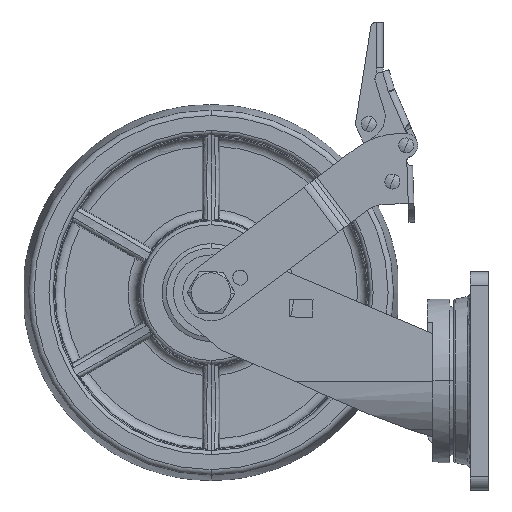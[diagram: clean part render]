
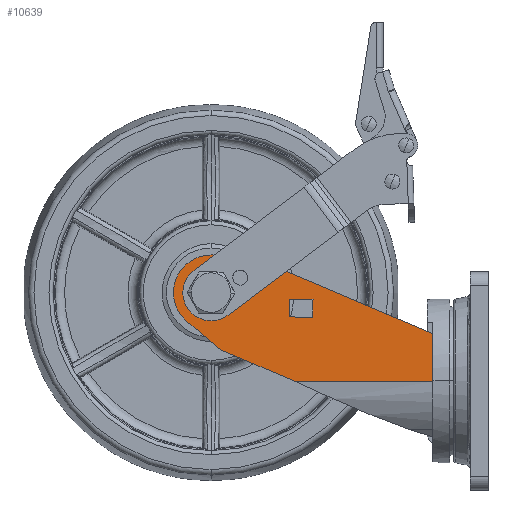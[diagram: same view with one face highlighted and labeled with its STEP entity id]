
A CAD part, left-side view. The second image highlights one B-rep face of the part: STEP entity #10639.
In plain terms, the highlighted planar face has unit normal (-1, 0, 0) as drawn and (1, 0, 0) by its records, which use the part's own axes.
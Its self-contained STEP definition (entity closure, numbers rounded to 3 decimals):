
#10099=DIRECTION('',(0.,0.,1.));
#10100=VECTOR('',#10099,25.413);
#10101=CARTESIAN_POINT('',(0.,38.,-1.068));
#10102=LINE('',#10101,#10100);
#10169=DIRECTION('',(0.,1.,0.));
#10170=VECTOR('',#10169,73.214);
#10171=CARTESIAN_POINT('',(0.,-35.214,-1.068));
#10172=LINE('',#10171,#10170);
#10177=DIRECTION('',(0.,-0.921,0.391));
#10178=VECTOR('',#10177,43.054);
#10179=CARTESIAN_POINT('',(0.,-35.214,-1.068));
#10180=LINE('',#10179,#10178);
#10181=DIRECTION('',(0.,-0.766,0.643));
#10182=VECTOR('',#10181,23.511);
#10183=CARTESIAN_POINT('',(0.,-74.845,15.755));
#10184=LINE('',#10183,#10182);
#10185=CARTESIAN_POINT('',(0.,-80.,46.188));
#10186=DIRECTION('',(-1.,0.,0.));
#10187=DIRECTION('',(0.,-0.643,-0.766));
#10188=AXIS2_PLACEMENT_3D('',#10185,#10186,#10187);
#10190=CARTESIAN_POINT('',(0.,-80.,46.188));
#10191=DIRECTION('',(-1.,0.,0.));
#10192=DIRECTION('',(0.,0.,1.));
#10193=AXIS2_PLACEMENT_3D('',#10190,#10191,#10192);
#10195=DIRECTION('',(0.,0.995,-0.105));
#10196=VECTOR('',#10195,23.511);
#10197=CARTESIAN_POINT('',(0.,-77.909,66.078));
#10198=LINE('',#10197,#10196);
#10199=DIRECTION('',(0.,0.921,-0.391));
#10200=VECTOR('',#10199,100.518);
#10201=CARTESIAN_POINT('',(0.,-54.527,63.621));
#10202=LINE('',#10201,#10200);
#10203=DIRECTION('',(0.,0.017,1.));
#10204=VECTOR('',#10203,9.5);
#10205=CARTESIAN_POINT('',(0.,-25.934,33.03));
#10206=LINE('',#10205,#10204);
#10207=DIRECTION('',(0.,-1.,0.017));
#10208=VECTOR('',#10207,12.5);
#10209=CARTESIAN_POINT('',(0.,-25.768,42.528));
#10210=LINE('',#10209,#10208);
#10211=DIRECTION('',(0.,-0.017,-1.));
#10212=VECTOR('',#10211,9.5);
#10213=CARTESIAN_POINT('',(0.,-38.266,42.746));
#10214=LINE('',#10213,#10212);
#10215=DIRECTION('',(0.,1.,-0.017));
#10216=VECTOR('',#10215,12.5);
#10217=CARTESIAN_POINT('',(0.,-38.432,33.248));
#10218=LINE('',#10217,#10216);
#10219=CARTESIAN_POINT('',(0.,-64.47,54.128));
#10220=DIRECTION('',(1.,0.,0.));
#10221=DIRECTION('',(0.,0.,-1.));
#10222=AXIS2_PLACEMENT_3D('',#10219,#10220,#10221);
#10224=CARTESIAN_POINT('',(0.,-64.47,54.128));
#10225=DIRECTION('',(1.,0.,0.));
#10226=DIRECTION('',(0.,0.,1.));
#10227=AXIS2_PLACEMENT_3D('',#10224,#10225,#10226);
#10229=CARTESIAN_POINT('',(0.,-80.,46.188));
#10230=DIRECTION('',(1.,0.,0.));
#10231=DIRECTION('',(0.,0.,-1.));
#10232=AXIS2_PLACEMENT_3D('',#10229,#10230,#10231);
#10234=CARTESIAN_POINT('',(0.,-80.,46.188));
#10235=DIRECTION('',(1.,0.,0.));
#10236=DIRECTION('',(0.,0.,1.));
#10237=AXIS2_PLACEMENT_3D('',#10234,#10235,#10236);
#10276=CARTESIAN_POINT('',(0.,-25.768,42.528));
#10278=VERTEX_POINT('',#10276);
#10281=CARTESIAN_POINT('',(0.,-38.266,42.746));
#10282=VERTEX_POINT('',#10281);
#10284=CARTESIAN_POINT('',(0.,-25.934,33.03));
#10286=VERTEX_POINT('',#10284);
#10288=CARTESIAN_POINT('',(0.,-38.432,33.248));
#10290=VERTEX_POINT('',#10288);
#10315=CARTESIAN_POINT('',(0.,38.,-1.068));
#10316=VERTEX_POINT('',#10315);
#10317=CARTESIAN_POINT('',(0.,38.,24.345));
#10318=VERTEX_POINT('',#10317);
#10326=CARTESIAN_POINT('',(0.,-35.214,-1.068));
#10327=VERTEX_POINT('',#10326);
#10332=CARTESIAN_POINT('',(0.,-74.845,15.755));
#10333=VERTEX_POINT('',#10332);
#10334=CARTESIAN_POINT('',(0.,-92.856,30.867));
#10335=VERTEX_POINT('',#10334);
#10336=CARTESIAN_POINT('',(0.,-80.,66.188));
#10337=VERTEX_POINT('',#10336);
#10338=CARTESIAN_POINT('',(0.,-77.909,66.078));
#10339=VERTEX_POINT('',#10338);
#10340=CARTESIAN_POINT('',(0.,-54.527,63.621));
#10341=VERTEX_POINT('',#10340);
#10342=CARTESIAN_POINT('',(0.,-64.47,50.128));
#10343=CARTESIAN_POINT('',(0.,-64.47,58.128));
#10344=VERTEX_POINT('',#10342);
#10345=VERTEX_POINT('',#10343);
#10346=CARTESIAN_POINT('',(0.,-80.,38.688));
#10347=CARTESIAN_POINT('',(0.,-80.,53.688));
#10348=VERTEX_POINT('',#10346);
#10349=VERTEX_POINT('',#10347);
#10600=CARTESIAN_POINT('',(0.,-80.,46.188));
#10601=DIRECTION('',(1.,0.,0.));
#10602=DIRECTION('',(0.,0.,-1.));
#10603=AXIS2_PLACEMENT_3D('',#10600,#10601,#10602);
#10604=PLANE('',#10603);
#10605=ORIENTED_EDGE('',*,*,#10593,.F.);
#10607=ORIENTED_EDGE('',*,*,#10606,.T.);
#10609=ORIENTED_EDGE('',*,*,#10608,.T.);
#10611=ORIENTED_EDGE('',*,*,#10610,.T.);
#10613=ORIENTED_EDGE('',*,*,#10612,.T.);
#10615=ORIENTED_EDGE('',*,*,#10614,.T.);
#10617=ORIENTED_EDGE('',*,*,#10616,.T.);
#10618=ORIENTED_EDGE('',*,*,#10459,.F.);
#10619=EDGE_LOOP('',(#10605,#10607,#10609,#10611,#10613,#10615,#10617,#10618));
#10620=FACE_OUTER_BOUND('',#10619,.F.);
#10621=ORIENTED_EDGE('',*,*,#10376,.T.);
#10622=ORIENTED_EDGE('',*,*,#10361,.T.);
#10623=ORIENTED_EDGE('',*,*,#10405,.T.);
#10624=ORIENTED_EDGE('',*,*,#10391,.T.);
#10625=EDGE_LOOP('',(#10621,#10622,#10623,#10624));
#10626=FACE_BOUND('',#10625,.F.);
#10628=ORIENTED_EDGE('',*,*,#10627,.T.);
#10630=ORIENTED_EDGE('',*,*,#10629,.T.);
#10631=EDGE_LOOP('',(#10628,#10630));
#10632=FACE_BOUND('',#10631,.F.);
#10634=ORIENTED_EDGE('',*,*,#10633,.T.);
#10636=ORIENTED_EDGE('',*,*,#10635,.T.);
#10637=EDGE_LOOP('',(#10634,#10636));
#10638=FACE_BOUND('',#10637,.F.);
#10189=CIRCLE('',#10188,20.);
#10194=CIRCLE('',#10193,20.);
#10223=CIRCLE('',#10222,4.);
#10228=CIRCLE('',#10227,4.);
#10233=CIRCLE('',#10232,7.5);
#10238=CIRCLE('',#10237,7.5);
#10361=EDGE_CURVE('',#10278,#10282,#10210,.T.);
#10376=EDGE_CURVE('',#10286,#10278,#10206,.T.);
#10391=EDGE_CURVE('',#10290,#10286,#10218,.T.);
#10405=EDGE_CURVE('',#10282,#10290,#10214,.T.);
#10459=EDGE_CURVE('',#10316,#10318,#10102,.T.);
#10593=EDGE_CURVE('',#10327,#10316,#10172,.T.);
#10606=EDGE_CURVE('',#10327,#10333,#10180,.T.);
#10608=EDGE_CURVE('',#10333,#10335,#10184,.T.);
#10610=EDGE_CURVE('',#10335,#10337,#10189,.T.);
#10612=EDGE_CURVE('',#10337,#10339,#10194,.T.);
#10614=EDGE_CURVE('',#10339,#10341,#10198,.T.);
#10616=EDGE_CURVE('',#10341,#10318,#10202,.T.);
#10627=EDGE_CURVE('',#10344,#10345,#10223,.T.);
#10629=EDGE_CURVE('',#10345,#10344,#10228,.T.);
#10633=EDGE_CURVE('',#10348,#10349,#10233,.T.);
#10635=EDGE_CURVE('',#10349,#10348,#10238,.T.);
#10639=ADVANCED_FACE('',(#10620,#10626,#10632,#10638),#10604,.T.);
